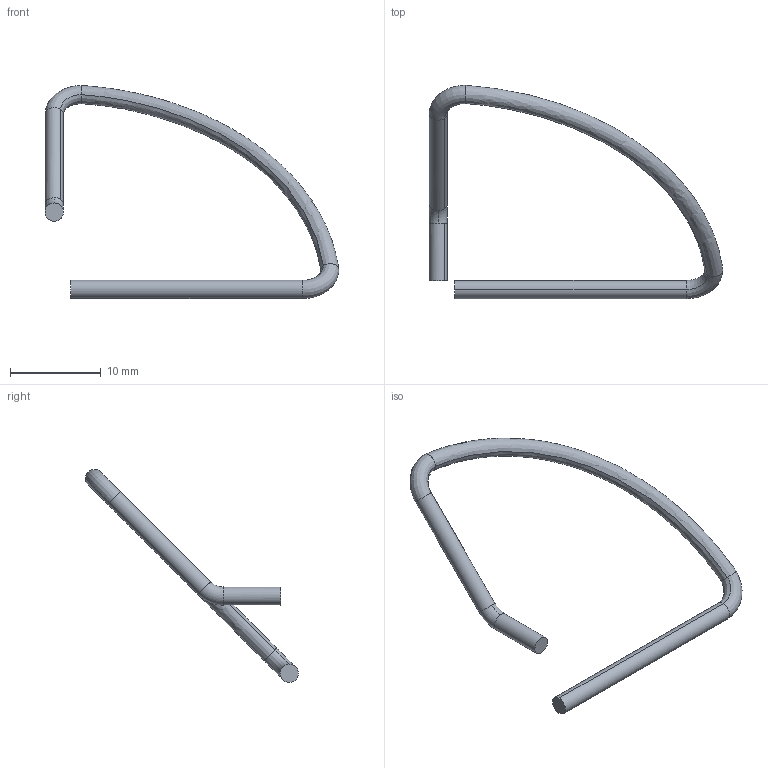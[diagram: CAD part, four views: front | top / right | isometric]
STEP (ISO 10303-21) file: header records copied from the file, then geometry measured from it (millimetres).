
FILE_DESCRIPTION(('STEP AP214'),'1');
FILE_NAME('.stp','2024-12-04T05:17:34',('user072'),(' '),'Spatial InterOp 3D','CST ACIS InterOp Converter 2021',' ');
FILE_SCHEMA(('AUTOMOTIVE_DESIGN { 1 0 10303 214 1 1 1 1 }'));
Length unit declared in the file: millimetre
Products named in the file (1): component1|wire1
Bounding box: 32.29 x 23.42 x 23.42 mm (x, y, z)
Volume: 312.3 mm3; surface area: 630.8 mm2
Topology: 1 solids, 1 shells, 16 faces, 38 edges, 24 vertices
Faces by surface type: bspline 6, cylinder 6, torus 2, plane 2
Entity records: 3047 total; most frequent: CARTESIAN_POINT 2679, ORIENTED_EDGE 76, DIRECTION 64, EDGE_CURVE 38, AXIS2_PLACEMENT_3D 29, VERTEX_POINT 24, CIRCLE 18, ADVANCED_FACE 16
